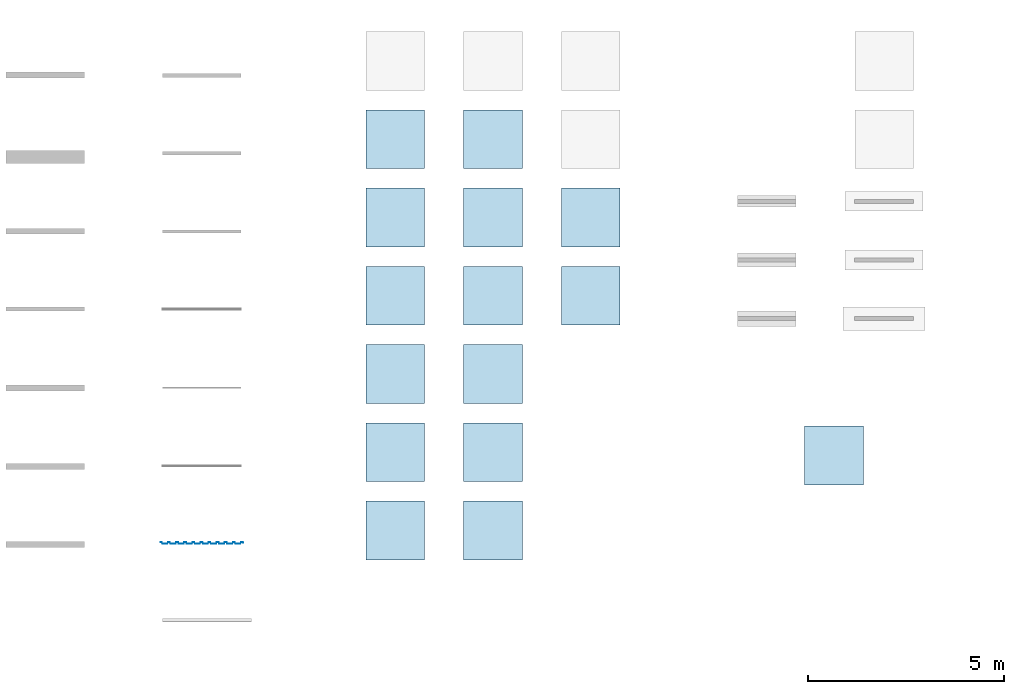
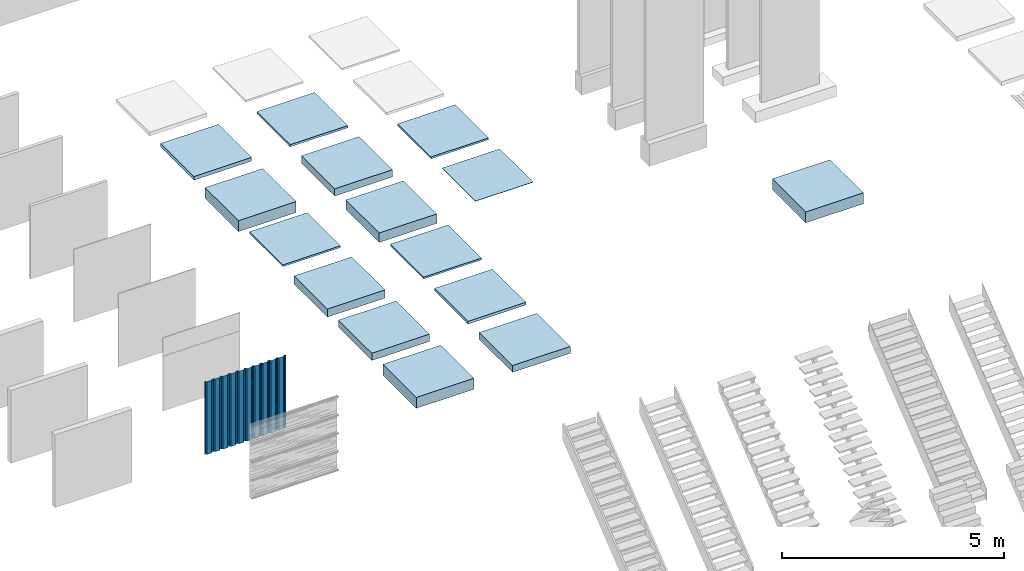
# One storey, part 3 of 14: 15 slabs, 2 plates, 1 element without a shape of its own.
"""IFC2X3 building model written with IfcOpenShell, lengths in millimetres."""

from ifc_helpers import new_model, entity, si_unit, converted_unit, derived_unit, direction, frame, frame_2d, origin, origin_2d_with_axis, place, context, subcontext, project, spatial, polyline, circle_curve, parameter, trimmed, segment, composite_curve, rectangle, outline, extrude, source, transform, mapped, material, layer, layer_set, layer_usage, type_object, type_shapes, element, aggregate, save


model = new_model("IFC2X3")

# Units and contexts
model_context = context("Model", 3, precision=0.01, world=origin(), true_north=direction((6.12303176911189e-17, 1.0)))
context_of_model = context(None, 3, precision=0.01, world=origin(), true_north=direction((6.12303176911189e-17, 1.0)))
body_context = subcontext(model_context, "Body", "Model", "MODEL_VIEW")
ifc_project = project(units=[si_unit("LENGTHUNIT", "METRE", prefix="MILLI"), si_unit("AREAUNIT", "SQUARE_METRE"), si_unit("VOLUMEUNIT", "CUBIC_METRE"), converted_unit("PLANEANGLEUNIT", "DEGREE", entity("IfcRatioMeasure", 0.0174532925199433), si_unit("PLANEANGLEUNIT", "RADIAN"), dimensions=[0, 0, 0, 0, 0, 0, 0]), si_unit("MASSUNIT", "GRAM", prefix="KILO"), si_unit("TIMEUNIT", "SECOND"), si_unit("FREQUENCYUNIT", "HERTZ"), si_unit("THERMODYNAMICTEMPERATUREUNIT", "KELVIN"), derived_unit("THERMALTRANSMITTANCEUNIT", [(si_unit("MASSUNIT", "GRAM", prefix="KILO"), 1), (si_unit("THERMODYNAMICTEMPERATUREUNIT", "KELVIN"), -1), (si_unit("TIMEUNIT", "SECOND"), -3)]), derived_unit("VOLUMETRICFLOWRATEUNIT", [(si_unit("LENGTHUNIT", "METRE"), 3), (si_unit("TIMEUNIT", "SECOND"), -1)]), si_unit("ELECTRICCURRENTUNIT", "AMPERE"), si_unit("ELECTRICVOLTAGEUNIT", "VOLT"), si_unit("POWERUNIT", "WATT")], contexts=[model_context, context_of_model])

# Site, building, storey
site_placement = place(None, origin())
site = spatial("IfcSite", under=ifc_project, at=site_placement, Name="Surface", CompositionType="ELEMENT")
building_placement = place(site_placement, origin())
building = spatial("IfcBuilding", under=site, at=building_placement, CompositionType="ELEMENT")
storey_placement = place(building_placement, origin())
storey = spatial("IfcBuildingStorey", under=building, at=storey_placement, Name="00_begane grond", CompositionType="ELEMENT", Elevation=0.0)

# Curtain wall, plates
curtain_wall_type = type_object("IfcCurtainWallType", PredefinedType="NOTDEFINED")
curtain_wall_placement = place(storey_placement, origin())
curtain_wall = element("IfcCurtainWall", 1, at=curtain_wall_placement, inside=storey, type_object=curtain_wall_type)
plate_type = type_object("IfcPlateType", Name="SAB35_1035", PredefinedType="NOTDEFINED")
shared_shape = source(origin(), body_context, "Body", "SweptSolid", [
    extrude(outline(composite_curve([segment(polyline([(-305.801843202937, -425.10492461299), (-270.924006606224, -425.10492461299)]), True, "CONTINUOUS"), segment(trimmed(circle_curve(frame_2d((-270.924006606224, -419.083497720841), x_axis=(0.565528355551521, 0.824728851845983)), 6.02142689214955), [parameter(214.438989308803)], [parameter(269.999999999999)], True, "PARAMETER"), True, "CONTINUOUS"), segment(polyline([(-265.957962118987, -422.488785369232), (-200.634048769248, -327.224745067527)]), True, "CONTINUOUS"), segment(trimmed(circle_curve(frame_2d((-205.600093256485, -323.819457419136), x_axis=(0.565528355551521, 0.824728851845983)), 6.02142689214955), [parameter(269.999999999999)], [parameter(325.561010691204)], True, "PARAMETER"), True, "CONTINUOUS"), segment(polyline([(-199.98321531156, -321.649603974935), (-213.425506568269, -286.852917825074)]), True, "CONTINUOUS"), segment(trimmed(circle_curve(frame_2d((-209.680921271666, -285.406348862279), x_axis=(0.565528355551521, 0.824728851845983)), 4.01428459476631), [parameter(90.0000000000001)], [parameter(145.561010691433)], True, "PARAMETER"), False, "CONTINUOUS"), segment(polyline([(-212.991617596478, -283.136157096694), (-193.279573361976, -254.389425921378)]), True, "CONTINUOUS"), segment(trimmed(circle_curve(frame_2d((-189.968877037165, -256.659617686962), x_axis=(0.565528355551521, 0.824728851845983)), 4.01428459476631), [parameter(34.4389893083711)], [parameter(90.0000000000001)], True, "PARAMETER"), False, "CONTINUOUS"), segment(polyline([(-189.968877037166, -252.645333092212), (-152.666000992, -252.6453330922)]), True, "CONTINUOUS"), segment(trimmed(circle_curve(frame_2d((-152.666000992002, -246.62390620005), x_axis=(0.565528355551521, 0.824728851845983)), 6.02142689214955), [parameter(214.438989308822)], [parameter(270.0)], True, "PARAMETER"), True, "CONTINUOUS"), segment(polyline([(-147.699956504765, -250.029193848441), (-83.1516248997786, -155.896210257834)]), True, "CONTINUOUS"), segment(trimmed(circle_curve(frame_2d((-88.1176693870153, -152.490922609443), x_axis=(0.565528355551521, 0.824728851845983)), 6.02142689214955), [parameter(270.0)], [parameter(325.5610106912)], True, "PARAMETER"), True, "CONTINUOUS"), segment(polyline([(-82.5007914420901, -150.321069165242), (-95.9430826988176, -115.524383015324)]), True, "CONTINUOUS"), segment(trimmed(circle_curve(frame_2d((-92.1984974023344, -114.077814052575), x_axis=(0.565528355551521, 0.824728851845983)), 4.01428459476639), [parameter(90.0000000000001)], [parameter(145.561010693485)], True, "PARAMETER"), False, "CONTINUOUS"), segment(polyline([(-95.5091937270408, -111.807622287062), (-75.7971494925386, -83.0608911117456)]), True, "CONTINUOUS"), segment(trimmed(circle_curve(frame_2d((-72.4864531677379, -85.3310828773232), x_axis=(0.565528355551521, 0.824728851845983)), 4.01428459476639), [parameter(34.4389893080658)], [parameter(89.9999999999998)], True, "PARAMETER"), False, "CONTINUOUS"), segment(polyline([(-72.4864531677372, -81.316798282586), (-35.1835771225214, -81.3167982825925)]), True, "CONTINUOUS"), segment(trimmed(circle_curve(frame_2d((-35.1835771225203, -75.2953713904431), x_axis=(0.565528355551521, 0.824728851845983)), 6.02142689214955), [parameter(214.438989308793)], [parameter(269.999999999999)], True, "PARAMETER"), True, "CONTINUOUS"), segment(polyline([(-30.2175326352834, -78.7006590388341), (34.3307989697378, 15.4323245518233)]), True, "CONTINUOUS"), segment(trimmed(circle_curve(frame_2d((29.3647544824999, 18.837612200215), x_axis=(0.565528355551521, 0.824728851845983)), 6.02142689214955), [parameter(269.999999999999)], [parameter(325.561010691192)], True, "PARAMETER"), True, "CONTINUOUS"), segment(polyline([(34.9816324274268, 21.0074656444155), (21.5393411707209, 55.8041517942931)]), True, "CONTINUOUS"), segment(trimmed(circle_curve(frame_2d((25.2839264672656, 57.2507207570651), x_axis=(0.565528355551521, 0.824728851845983)), 4.01428459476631), [parameter(90.0000000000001)], [parameter(145.561010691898)], True, "PARAMETER"), False, "CONTINUOUS"), segment(polyline([(21.973230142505, 59.5209125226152), (41.6852743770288, 88.2676436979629)]), True, "CONTINUOUS"), segment(trimmed(circle_curve(frame_2d((44.9959707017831, 85.9974519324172), x_axis=(0.565528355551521, 0.824728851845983)), 4.01428459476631), [parameter(34.4389893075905)], [parameter(90.0000000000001)], True, "PARAMETER"), False, "CONTINUOUS"), segment(polyline([(44.995970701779, 90.0117365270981), (82.2988467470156, 90.0117365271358)]), True, "CONTINUOUS"), segment(trimmed(circle_curve(frame_2d((82.2988467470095, 96.0331634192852), x_axis=(0.565528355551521, 0.824728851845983)), 6.02142689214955), [parameter(214.438989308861)], [parameter(270.0)], True, "PARAMETER"), True, "CONTINUOUS"), segment(polyline([(87.2648912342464, 92.6278757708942), (151.81322283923, 186.760859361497)]), True, "CONTINUOUS"), segment(trimmed(circle_curve(frame_2d((146.847178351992, 190.166147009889), x_axis=(0.565528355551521, 0.824728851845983)), 6.02142689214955), [parameter(270.0)], [parameter(325.561010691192)], True, "PARAMETER"), True, "CONTINUOUS"), segment(polyline([(152.464056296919, 192.33600045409), (139.021765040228, 227.13268660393)]), True, "CONTINUOUS"), segment(trimmed(circle_curve(frame_2d((142.766350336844, 228.579255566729), x_axis=(0.565528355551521, 0.824728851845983)), 4.01428459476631), [parameter(90.0000000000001)], [parameter(145.561010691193)], True, "PARAMETER"), False, "CONTINUOUS"), segment(polyline([(139.45565401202, 230.849447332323), (159.167698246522, 259.596178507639)]), True, "CONTINUOUS"), segment(trimmed(circle_curve(frame_2d((162.478394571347, 257.325986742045), x_axis=(0.565528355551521, 0.824728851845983)), 4.01428459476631), [parameter(34.4389893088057)], [parameter(90.0000000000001)], True, "PARAMETER"), False, "CONTINUOUS"), segment(polyline([(162.478394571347, 261.340271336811), (199.781270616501, 261.340271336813)]), True, "CONTINUOUS"), segment(trimmed(circle_curve(frame_2d((199.781270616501, 267.361698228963), x_axis=(0.565528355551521, 0.824728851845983)), 6.02142689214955), [parameter(214.438989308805)], [parameter(269.999999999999)], True, "PARAMETER"), True, "CONTINUOUS"), segment(polyline([(204.747315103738, 263.956410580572), (269.295646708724, 358.089394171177)]), True, "CONTINUOUS"), segment(trimmed(circle_curve(frame_2d((264.329602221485, 361.494681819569), x_axis=(0.565528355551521, 0.824728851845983)), 6.02142689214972), [parameter(269.999999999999)], [parameter(325.561010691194)], True, "PARAMETER"), True, "CONTINUOUS"), segment(polyline([(269.946480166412, 363.66453526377), (256.50418890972, 398.461221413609)]), True, "CONTINUOUS"), segment(trimmed(circle_curve(frame_2d((260.248774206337, 399.907790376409), x_axis=(0.565528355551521, 0.824728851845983)), 4.01428459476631), [parameter(90.0000000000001)], [parameter(145.561010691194)], True, "PARAMETER"), False, "CONTINUOUS"), segment(polyline([(256.938077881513, 402.177982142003), (276.650122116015, 430.92471331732)]), True, "CONTINUOUS"), segment(trimmed(circle_curve(frame_2d((279.960818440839, 428.654521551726), x_axis=(0.565528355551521, 0.824728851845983)), 4.01428459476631), [parameter(34.4389893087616)], [parameter(90.0000000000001)], True, "PARAMETER"), False, "CONTINUOUS"), segment(polyline([(279.960818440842, 432.668806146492), (298.15419015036, 432.668806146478)]), True, "CONTINUOUS"), segment(polyline([(298.15419015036, 432.668806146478), (298.154190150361, 434.67594844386)]), True, "CONTINUOUS"), segment(polyline([(298.154190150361, 434.67594844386), (279.960818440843, 434.675948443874)]), True, "CONTINUOUS"), segment(trimmed(circle_curve(frame_2d((279.960818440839, 428.654521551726), x_axis=(0.565528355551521, 0.824728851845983)), 6.02142689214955), [parameter(34.4389893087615)], [parameter(89.9999999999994)], True, "PARAMETER"), True, "CONTINUOUS"), segment(polyline([(274.994773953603, 432.059809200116), (255.282729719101, 403.3130780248)]), True, "CONTINUOUS"), segment(trimmed(circle_curve(frame_2d((260.248774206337, 399.907790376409), x_axis=(0.565528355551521, 0.824728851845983)), 6.02142689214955), [parameter(89.9999999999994)], [parameter(145.561010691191)], True, "PARAMETER"), True, "CONTINUOUS"), segment(polyline([(254.631896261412, 397.737936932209), (268.074187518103, 362.941250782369)]), True, "CONTINUOUS"), segment(trimmed(circle_curve(frame_2d((264.329602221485, 361.494681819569), x_axis=(0.565528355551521, 0.824728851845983)), 4.01428459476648), [parameter(270.0)], [parameter(325.561010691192)], True, "PARAMETER"), False, "CONTINUOUS"), segment(polyline([(267.640298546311, 359.224490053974), (203.091966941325, 265.091506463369)]), True, "CONTINUOUS"), segment(trimmed(circle_curve(frame_2d((199.781270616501, 267.361698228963), x_axis=(0.565528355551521, 0.824728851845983)), 4.01428459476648), [parameter(214.438989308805)], [parameter(270.0)], True, "PARAMETER"), False, "CONTINUOUS"), segment(polyline([(199.781270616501, 263.347413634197), (162.478394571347, 263.347413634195)]), True, "CONTINUOUS"), segment(trimmed(circle_curve(frame_2d((162.478394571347, 257.325986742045), x_axis=(0.565528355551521, 0.824728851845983)), 6.02142689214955), [parameter(34.4389893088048)], [parameter(89.9999999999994)], True, "PARAMETER"), True, "CONTINUOUS"), segment(polyline([(157.51235008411, 260.731274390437), (137.800305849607, 231.98454321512)]), True, "CONTINUOUS"), segment(trimmed(circle_curve(frame_2d((142.766350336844, 228.579255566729), x_axis=(0.565528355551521, 0.824728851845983)), 6.02142689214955), [parameter(89.9999999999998)], [parameter(145.561010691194)], True, "PARAMETER"), True, "CONTINUOUS"), segment(polyline([(137.149472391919, 226.409402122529), (150.591763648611, 191.61271597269)]), True, "CONTINUOUS"), segment(trimmed(circle_curve(frame_2d((146.847178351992, 190.166147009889), x_axis=(0.565528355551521, 0.824728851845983)), 4.01428459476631), [parameter(270.0)], [parameter(325.561010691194)], True, "PARAMETER"), False, "CONTINUOUS"), segment(polyline([(150.157874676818, 187.895955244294), (85.6095430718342, 93.7629716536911)]), True, "CONTINUOUS"), segment(trimmed(circle_curve(frame_2d((82.2988467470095, 96.0331634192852), x_axis=(0.565528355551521, 0.824728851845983)), 4.01428459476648), [parameter(214.438989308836)], [parameter(270.0)], True, "PARAMETER"), False, "CONTINUOUS"), segment(polyline([(82.2988467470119, 92.0188788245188), (44.9959707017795, 92.018878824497)]), True, "CONTINUOUS"), segment(trimmed(circle_curve(frame_2d((44.9959707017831, 85.9974519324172), x_axis=(0.565528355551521, 0.824728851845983)), 6.02142689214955), [parameter(34.4389893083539)], [parameter(89.9999999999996)], True, "PARAMETER"), True, "CONTINUOUS"), segment(polyline([(40.0299262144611, 89.4027395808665), (20.3178819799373, 60.6560084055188)]), True, "CONTINUOUS"), segment(trimmed(circle_curve(frame_2d((25.2839264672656, 57.2507207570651), x_axis=(0.565528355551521, 0.824728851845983)), 6.02142689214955), [parameter(89.9999999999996)], [parameter(145.561010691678)], True, "PARAMETER"), True, "CONTINUOUS"), segment(polyline([(19.6670485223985, 55.080867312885), (33.1093397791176, 20.284181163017)]), True, "CONTINUOUS"), segment(trimmed(circle_curve(frame_2d((29.3647544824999, 18.837612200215), x_axis=(0.565528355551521, 0.824728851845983)), 4.01428459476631), [parameter(270.0)], [parameter(325.561010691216)], True, "PARAMETER"), False, "CONTINUOUS"), segment(polyline([(32.6754508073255, 16.5674204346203), (-31.8728807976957, -77.5655631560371)]), True, "CONTINUOUS"), segment(trimmed(circle_curve(frame_2d((-35.1835771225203, -75.2953713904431), x_axis=(0.565528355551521, 0.824728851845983)), 4.01428459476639), [parameter(214.438989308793)], [parameter(270.0)], True, "PARAMETER"), False, "CONTINUOUS"), segment(polyline([(-35.183577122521, -79.3096559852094), (-72.4864531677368, -79.3096559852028)]), True, "CONTINUOUS"), segment(trimmed(circle_curve(frame_2d((-72.4864531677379, -85.3310828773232), x_axis=(0.565528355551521, 0.824728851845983)), 6.02142689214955), [parameter(34.4389893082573)], [parameter(89.9999999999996)], True, "PARAMETER"), True, "CONTINUOUS"), segment(polyline([(-77.452497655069, -81.9257952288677), (-97.1645418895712, -110.672526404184)]), True, "CONTINUOUS"), segment(trimmed(circle_curve(frame_2d((-92.1984974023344, -114.077814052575), x_axis=(0.565528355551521, 0.824728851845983)), 6.02142689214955), [parameter(89.9999999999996)], [parameter(145.56101069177)], True, "PARAMETER"), True, "CONTINUOUS"), segment(polyline([(-97.8153753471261, -116.247667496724), (-84.3730840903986, -151.044353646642)]), True, "CONTINUOUS"), segment(trimmed(circle_curve(frame_2d((-88.1176693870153, -152.490922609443), x_axis=(0.565528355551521, 0.824728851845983)), 4.01428459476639), [parameter(270.0)], [parameter(325.5610106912)], True, "PARAMETER"), False, "CONTINUOUS"), segment(polyline([(-84.8069730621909, -154.761114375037), (-149.355304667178, -248.894097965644)]), True, "CONTINUOUS"), segment(trimmed(circle_curve(frame_2d((-152.666000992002, -246.62390620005), x_axis=(0.565528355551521, 0.824728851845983)), 4.01428459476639), [parameter(214.438989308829)], [parameter(270.0)], True, "PARAMETER"), False, "CONTINUOUS"), segment(polyline([(-152.666000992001, -250.638190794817), (-189.968877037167, -250.638190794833)]), True, "CONTINUOUS"), segment(trimmed(circle_curve(frame_2d((-189.968877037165, -256.659617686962), x_axis=(0.565528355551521, 0.824728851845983)), 6.02142689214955), [parameter(34.4389893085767)], [parameter(89.9999999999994)], True, "PARAMETER"), True, "CONTINUOUS"), segment(polyline([(-194.934921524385, -253.254330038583), (-214.646965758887, -282.001061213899)]), True, "CONTINUOUS"), segment(trimmed(circle_curve(frame_2d((-209.680921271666, -285.406348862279), x_axis=(0.565528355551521, 0.824728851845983)), 6.02142689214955), [parameter(89.9999999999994)], [parameter(145.561010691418)], True, "PARAMETER"), True, "CONTINUOUS"), segment(polyline([(-215.297799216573, -287.576202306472), (-201.855507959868, -322.372888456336)]), True, "CONTINUOUS"), segment(trimmed(circle_curve(frame_2d((-205.600093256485, -323.819457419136), x_axis=(0.565528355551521, 0.824728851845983)), 4.01428459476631), [parameter(270.0)], [parameter(325.561010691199)], True, "PARAMETER"), False, "CONTINUOUS"), segment(polyline([(-202.28939693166, -326.08964918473), (-267.613310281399, -421.353689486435)]), True, "CONTINUOUS"), segment(trimmed(circle_curve(frame_2d((-270.924006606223, -419.083497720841), x_axis=(0.565528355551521, 0.824728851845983)), 4.01428459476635), [parameter(214.438989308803)], [parameter(270.0)], True, "PARAMETER"), False, "CONTINUOUS"), segment(polyline([(-270.924006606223, -423.097782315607), (-305.801843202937, -423.097782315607)]), True, "CONTINUOUS"), segment(trimmed(circle_curve(frame_2d((-305.801843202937, -429.119209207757), x_axis=(0.565528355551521, 0.824728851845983)), 6.02142689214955), [parameter(34.4389893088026)], [parameter(89.9999999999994)], True, "PARAMETER"), True, "CONTINUOUS"), segment(polyline([(-310.767887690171, -425.713921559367), (-326.299389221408, -448.364027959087)]), True, "CONTINUOUS"), segment(polyline([(-326.299389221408, -448.364027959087), (-324.644041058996, -449.499123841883)]), True, "CONTINUOUS"), segment(polyline([(-324.644041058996, -449.499123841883), (-309.11253952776, -426.849017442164)]), True, "CONTINUOUS"), segment(trimmed(circle_curve(frame_2d((-305.801843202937, -429.119209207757), x_axis=(0.565528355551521, 0.824728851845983)), 4.01428459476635), [parameter(34.4389893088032)], [parameter(90.0000000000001)], True, "PARAMETER"), False, "CONTINUOUS")], self_intersect=False)), frame((24.9265260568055, 19.4540507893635, 0.0), z_axis=(0.0, 0.0, 1.0), x_axis=(0.565528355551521, -0.824728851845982, 0.0)), (0.0, 0.0, 1.0), 2000.0),
])
type_shapes(plate_type, [shared_shape])
plate_1_placement = place(curtain_wall_placement, frame((12477.5, -15000.0, 0.0)))
plate_1 = element("IfcPlate", 2, at=plate_1_placement, type_object=plate_type, Name="21_CWP_SAB35_1035:SAB35_1035", ObjectType="SAB35_1035", context=body_context, shape_type="MappedRepresentation", body=[
    mapped(shared_shape, transform((0.0, 0.0, 0.0), scale=1.0)),
])
plate_2_placement = place(curtain_wall_placement, frame((13512.5, -15000.0, 0.0)))
plate_2 = element("IfcPlate", 3, at=plate_2_placement, type_object=plate_type, Name="21_CWP_SAB35_1035:SAB35_1035", ObjectType="SAB35_1035", context=body_context, shape_type="MappedRepresentation", body=[
    mapped(shared_shape, transform((0.0, 0.0, 0.0), scale=1.0)),
])
aggregate(curtain_wall, [plate_1, plate_2])

# Slabs
ifc_material_1 = material(Name="Default")
ifc_layer_1 = layer(ifc_material_1, 100.0)
ifc_layer_set_1 = layer_set([ifc_layer_1], Name="Floor:23_FL_generiek_100")
ifc_layer_usage_1 = layer_usage(ifc_layer_set_1, "AXIS3", "POSITIVE", 0.0)
slab_1_placement = place(storey_placement, origin())
element("IfcSlab", 4, at=slab_1_placement, inside=storey, material=ifc_layer_usage_1, Name="Floor:23_FL_generiek_100", ObjectType="Floor:23_FL_generiek_100", PredefinedType="FLOOR", context=body_context, shape_type="SweptSolid", body=[
    extrude(rectangle(XDim=1500.0, YDim=1500.0, at=frame_2d((5.11590769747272e-13, 0.0), x_axis=(1.0, 0.0))), frame((17943.3473849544, -4665.0, 0.0), z_axis=(0.0, 0.0, -1.0), x_axis=(0.0, 1.0, 0.0)), (0.0, 0.0, 1.0), 100.0),
])
ifc_layer_2 = layer(ifc_material_1, 300.0)
ifc_layer_set_2 = layer_set([ifc_layer_2], Name="Floor:23_FL_generiek_300")
ifc_layer_usage_2 = layer_usage(ifc_layer_set_2, "AXIS3", "POSITIVE", 0.0)
slab_2_placement = place(storey_placement, origin())
element("IfcSlab", 5, at=slab_2_placement, inside=storey, material=ifc_layer_usage_2, Name="Floor:23_FL_generiek_300", ObjectType="Floor:23_FL_generiek_300", PredefinedType="FLOOR", context=body_context, shape_type="SweptSolid", body=[
    extrude(rectangle(XDim=1500.0, YDim=1500.0, at=frame_2d((5.11590769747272e-13, 0.0), x_axis=(1.0, 0.0))), frame((17943.3473849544, -6665.0, 0.0), z_axis=(0.0, 0.0, -1.0), x_axis=(0.0, 1.0, 0.0)), (0.0, 0.0, 1.0), 300.0),
])
ifc_material_2 = material(Name="11_werkvloer_stampbeton")
ifc_layer_3 = layer(ifc_material_2, 50.0)
ifc_layer_set_3 = layer_set([ifc_layer_3], Name="Floor:11_FL_werkvloer_stampbeton_50")
ifc_layer_usage_3 = layer_usage(ifc_layer_set_3, "AXIS3", "POSITIVE", 0.0)
slab_3_placement = place(storey_placement, origin())
element("IfcSlab", 6, at=slab_3_placement, inside=storey, material=ifc_layer_usage_3, Name="Floor:11_FL_werkvloer_stampbeton_50", ObjectType="Floor:11_FL_werkvloer_stampbeton_50", PredefinedType="FLOOR", context=body_context, shape_type="SweptSolid", body=[
    extrude(rectangle(XDim=1500.0, YDim=1500.0, at=frame_2d((5.11590769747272e-13, 0.0), x_axis=(1.0, 0.0))), frame((17943.3473849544, -8665.0, 0.0), z_axis=(0.0, 0.0, -1.0), x_axis=(0.0, 1.0, 0.0)), (0.0, 0.0, 1.0), 50.0),
])
ifc_material_3 = material(Name="13_beton_ihwg_C20/25")
ifc_layer_4 = layer(ifc_material_3, 120.0)
ifc_material_4 = material(Name="20_isolatie_EPS")
ifc_layer_5 = layer(ifc_material_4, 100.0)
ifc_material_5 = material(Name="11_bodemafsluiter_folie")
ifc_layer_6 = layer(ifc_material_5, 2.0)
ifc_layer_set_4 = layer_set([ifc_layer_4, ifc_layer_5, ifc_layer_6], Name="Floor:13_FL_ihwg_beton_geïsoleerd_222_120-100-2")
ifc_layer_usage_4 = layer_usage(ifc_layer_set_4, "AXIS3", "POSITIVE", 0.0)
slab_4_placement = place(storey_placement, origin())
element("IfcSlab", 7, at=slab_4_placement, inside=storey, material=ifc_layer_usage_4, Name="Floor:13_FL_ihwg_beton_geïsoleerd_222_120-100-2", ObjectType="Floor:13_FL_ihwg_beton_geïsoleerd_222_120-100-2", PredefinedType="FLOOR", context=body_context, shape_type="SweptSolid", body=[
    extrude(rectangle(XDim=1500.0, YDim=1500.0, at=frame_2d((0.0, -2.1600499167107e-12), x_axis=(1.0, 0.0))), frame((17943.3473849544, -10665.0, 0.0), z_axis=(0.0, 0.0, -1.0), x_axis=(0.0, 1.0, 0.0)), (0.0, 0.0, 1.0), 222.0),
])
ifc_layer_7 = layer(ifc_material_3, 200.0)
ifc_layer_set_5 = layer_set([ifc_layer_7], Name="Floor:23_FL_ihwg_beton_200")
ifc_layer_usage_5 = layer_usage(ifc_layer_set_5, "AXIS3", "POSITIVE", 0.0)
slab_5_placement = place(storey_placement, origin())
element("IfcSlab", 8, at=slab_5_placement, inside=storey, material=ifc_layer_usage_5, Name="Floor:23_FL_ihwg_beton_200", ObjectType="Floor:23_FL_ihwg_beton_200", PredefinedType="FLOOR", context=body_context, shape_type="SweptSolid", body=[
    extrude(rectangle(XDim=1500.0, YDim=1500.0, at=origin_2d_with_axis()), frame((17943.3473849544, -12665.0, 0.0), z_axis=(0.0, 0.0, -1.0), x_axis=(0.0, 1.0, 0.0)), (0.0, 0.0, 1.0), 200.0),
])
ifc_layer_8 = layer(ifc_material_3, 300.0)
ifc_layer_set_6 = layer_set([ifc_layer_8], Name="Floor:23_FL_ihwg_beton_300")
ifc_layer_usage_6 = layer_usage(ifc_layer_set_6, "AXIS3", "POSITIVE", 0.0)
slab_6_placement = place(storey_placement, origin())
element("IfcSlab", 9, at=slab_6_placement, inside=storey, material=ifc_layer_usage_6, Name="Floor:23_FL_ihwg_beton_300", ObjectType="Floor:23_FL_ihwg_beton_300", PredefinedType="FLOOR", context=body_context, shape_type="SweptSolid", body=[
    extrude(rectangle(XDim=1500.0, YDim=1500.0, at=frame_2d((2.1600499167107e-12, 0.0), x_axis=(1.0, 0.0))), frame((17943.3473849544, -14665.0, 0.0), z_axis=(0.0, 0.0, -1.0), x_axis=(0.0, 1.0, 0.0)), (0.0, 0.0, 1.0), 300.0),
])
ifc_material_6 = material(Name="28_beton_prefab_C45_55")
ifc_layer_9 = layer(ifc_material_6, 60.0)
ifc_layer_set_7 = layer_set([ifc_layer_9], Name="Floor:23_FL_breedplaat_60")
ifc_layer_usage_7 = layer_usage(ifc_layer_set_7, "AXIS3", "POSITIVE", 0.0)
slab_7_placement = place(storey_placement, origin())
element("IfcSlab", 10, at=slab_7_placement, inside=storey, material=ifc_layer_usage_7, Name="Floor:23_FL_breedplaat_60", ObjectType="Floor:23_FL_breedplaat_60", PredefinedType="FLOOR", context=body_context, shape_type="SweptSolid", body=[
    extrude(rectangle(XDim=1500.0, YDim=1500.00000000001, at=frame_2d((-5.11590769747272e-13, 0.0), x_axis=(1.0, 0.0))), frame((20443.3473849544, -4665.0, 0.0), z_axis=(0.0, 0.0, -1.0), x_axis=(0.0, 1.0, 0.0)), (0.0, 0.0, 1.0), 60.0),
])
ifc_layer_10 = layer(ifc_material_6, 200.0)
ifc_layer_set_8 = layer_set([ifc_layer_10], Name="Floor:23_FL_kanaalplaat_200")
ifc_layer_usage_8 = layer_usage(ifc_layer_set_8, "AXIS3", "POSITIVE", 0.0)
slab_8_placement = place(storey_placement, origin())
element("IfcSlab", 11, at=slab_8_placement, inside=storey, material=ifc_layer_usage_8, Name="Floor:23_FL_kanaalplaat_200", ObjectType="Floor:23_FL_kanaalplaat_200", PredefinedType="FLOOR", context=body_context, shape_type="SweptSolid", body=[
    extrude(rectangle(XDim=1500.0, YDim=1500.00000000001, at=frame_2d((5.11590769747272e-13, 0.0), x_axis=(1.0, 0.0))), frame((20443.3473849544, -6665.0, 0.0), z_axis=(0.0, 0.0, -1.0), x_axis=(0.0, 1.0, 0.0)), (0.0, 0.0, 1.0), 200.0),
])
ifc_layer_11 = layer(ifc_material_6, 260.0)
ifc_layer_set_9 = layer_set([ifc_layer_11], Name="Floor:23_FL_kanaalplaat_260")
ifc_layer_usage_9 = layer_usage(ifc_layer_set_9, "AXIS3", "POSITIVE", 0.0)
slab_9_placement = place(storey_placement, origin())
element("IfcSlab", 12, at=slab_9_placement, inside=storey, material=ifc_layer_usage_9, Name="Floor:23_FL_kanaalplaat_260", ObjectType="Floor:23_FL_kanaalplaat_260", PredefinedType="FLOOR", context=body_context, shape_type="SweptSolid", body=[
    extrude(rectangle(XDim=1500.0, YDim=1500.00000000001, at=frame_2d((-5.11590769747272e-13, 0.0), x_axis=(1.0, 0.0))), frame((20443.3473849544, -8665.0, 0.0), z_axis=(0.0, 0.0, -1.0), x_axis=(0.0, 1.0, 0.0)), (0.0, 0.0, 1.0), 260.0),
])
ifc_layer_12 = layer(ifc_material_3, 50.0)
ifc_layer_set_10 = layer_set([ifc_layer_12], Name="Floor:23_FL_zwaluwstaartvloer_ihwg_beton_50")
ifc_layer_usage_10 = layer_usage(ifc_layer_set_10, "AXIS3", "POSITIVE", 0.0)
slab_10_placement = place(storey_placement, origin())
element("IfcSlab", 13, at=slab_10_placement, inside=storey, material=ifc_layer_usage_10, Name="Floor:23_FL_zwaluwstaartvloer_ihwg_beton_50", ObjectType="Floor:23_FL_zwaluwstaartvloer_ihwg_beton_50", PredefinedType="FLOOR", context=body_context, shape_type="SweptSolid", body=[
    extrude(rectangle(XDim=1500.0, YDim=1500.0, at=frame_2d((1.08002495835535e-12, 0.0), x_axis=(1.0, 0.0))), frame((20443.3473849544, -10665.0, 0.0), z_axis=(0.0, 0.0, -1.0), x_axis=(0.0, 1.0, 0.0)), (0.0, 0.0, 1.0), 50.0),
])
ifc_layer_13 = layer(ifc_material_3, 75.0)
ifc_layer_set_11 = layer_set([ifc_layer_13], Name="Floor:23_FL_zwaluwstaartvloer_ihwg_beton_75")
ifc_layer_usage_11 = layer_usage(ifc_layer_set_11, "AXIS3", "POSITIVE", 0.0)
slab_11_placement = place(storey_placement, origin())
element("IfcSlab", 14, at=slab_11_placement, inside=storey, material=ifc_layer_usage_11, Name="Floor:23_FL_zwaluwstaartvloer_ihwg_beton_75", ObjectType="Floor:23_FL_zwaluwstaartvloer_ihwg_beton_75", PredefinedType="FLOOR", context=body_context, shape_type="SweptSolid", body=[
    extrude(rectangle(XDim=1500.0, YDim=1500.0, at=origin_2d_with_axis()), frame((20443.3473849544, -12665.0, 0.0), z_axis=(0.0, 0.0, -1.0), x_axis=(0.0, 1.0, 0.0)), (0.0, 0.0, 1.0), 75.0),
])
ifc_material_7 = material(Name="23_beplating_underlayment")
ifc_layer_14 = layer(ifc_material_7, 18.0)
ifc_material_8 = material(Name="23_houten_balklaag_geventileerd")
ifc_layer_15 = layer(ifc_material_8, 171.0)
ifc_layer_set_12 = layer_set([ifc_layer_14, ifc_layer_15], Name="Floor:23_FL_hout_underlayment_189mm_171-18")
ifc_layer_usage_12 = layer_usage(ifc_layer_set_12, "AXIS3", "POSITIVE", 0.0)
slab_12_placement = place(storey_placement, origin())
element("IfcSlab", 15, at=slab_12_placement, inside=storey, material=ifc_layer_usage_12, Name="Floor:23_FL_hout_underlayment_189mm_171-18", ObjectType="Floor:23_FL_hout_underlayment_189mm_171-18", PredefinedType="FLOOR", context=body_context, shape_type="SweptSolid", body=[
    extrude(rectangle(XDim=1500.0, YDim=1500.00000000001, at=origin_2d_with_axis()), frame((20443.3473849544, -14665.0, 0.0), z_axis=(0.0, 0.0, -1.0), x_axis=(0.0, 1.0, 0.0)), (0.0, 0.0, 1.0), 189.0),
])
ifc_material_9 = material(Name="43_vloerafwerking_hout_planken")
ifc_layer_16 = layer(ifc_material_9, 22.0)
ifc_material_10 = material(Name="20_isolatie_steenwol")
ifc_layer_17 = layer(ifc_material_10, 30.0)
ifc_layer_set_13 = layer_set([ifc_layer_16, ifc_layer_17], Name="Floor:43_FL_eiken_planken 150_geluidsisolatie_52_22-30")
ifc_layer_usage_13 = layer_usage(ifc_layer_set_13, "AXIS3", "POSITIVE", 0.0)
slab_13_placement = place(storey_placement, origin())
element("IfcSlab", 16, at=slab_13_placement, inside=storey, material=ifc_layer_usage_13, Name="Floor:43_FL_eiken_planken 150_geluidsisolatie_52_22-30", ObjectType="Floor:43_FL_eiken_planken 150_geluidsisolatie_52_22-30", PredefinedType="FLOOR", context=body_context, shape_type="SweptSolid", body=[
    extrude(rectangle(XDim=1500.0, YDim=1500.00000000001, at=origin_2d_with_axis()), frame((22943.3473849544, -6665.0, 0.0), z_axis=(0.0, 0.0, -1.0), x_axis=(0.0, 1.0, 0.0)), (0.0, 0.0, 1.0), 52.0),
])
ifc_material_11 = material(Name="43_tapijt_rood")
ifc_layer_18 = layer(ifc_material_11, 9.0)
ifc_layer_set_14 = layer_set([ifc_layer_18], Name="Floor:43_FL_tapijt_rood")
ifc_layer_usage_14 = layer_usage(ifc_layer_set_14, "AXIS3", "POSITIVE", 0.0)
slab_14_placement = place(storey_placement, origin())
element("IfcSlab", 17, at=slab_14_placement, inside=storey, material=ifc_layer_usage_14, Name="Floor:43_FL_tapijt_rood", ObjectType="Floor:43_FL_tapijt_rood", PredefinedType="FLOOR", context=body_context, shape_type="SweptSolid", body=[
    extrude(rectangle(XDim=1500.0, YDim=1500.00000000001, at=frame_2d((-5.11590769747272e-13, 0.0), x_axis=(1.0, 0.0))), frame((22943.3473849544, -8665.0, 0.0), z_axis=(0.0, 0.0, -1.0), x_axis=(0.0, 1.0, 0.0)), (0.0, 0.0, 1.0), 9.0),
])
ifc_material_12 = material(Name="90_bouwplaats")
ifc_layer_19 = layer(ifc_material_12, 300.0)
ifc_layer_set_15 = layer_set([ifc_layer_19], Name="Pad:90_SITE_bouwplaats")
ifc_layer_usage_15 = layer_usage(ifc_layer_set_15, "AXIS3", "NEGATIVE", 0.0)
slab_15_placement = place(storey_placement, frame((28413.3473849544, -13495.0, -300.0)))
element("IfcSlab", 18, at=slab_15_placement, inside=storey, material=ifc_layer_usage_15, Name="Pad:90_SITE_bouwplaats", ObjectType="Pad:90_SITE_bouwplaats", PredefinedType="FLOOR", context=body_context, shape_type="SweptSolid", body=[
    extrude(rectangle(XDim=1500.00000000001, YDim=1499.99999999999, at=origin_2d_with_axis()), frame((750.0, 750.0, 300.0), z_axis=(0.0, 0.0, -1.0), x_axis=(-1.0, 0.0, 0.0)), (0.0, 0.0, 1.0), 300.0),
])

save(model, "model.ifc")
